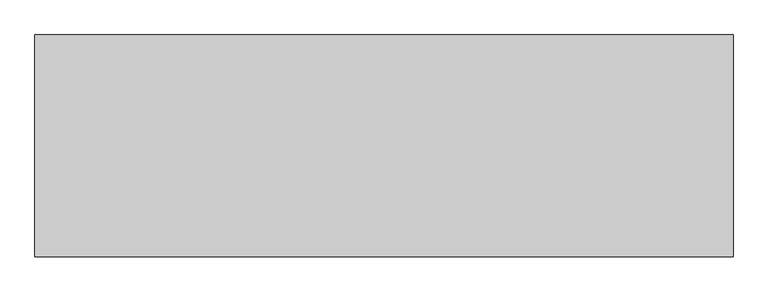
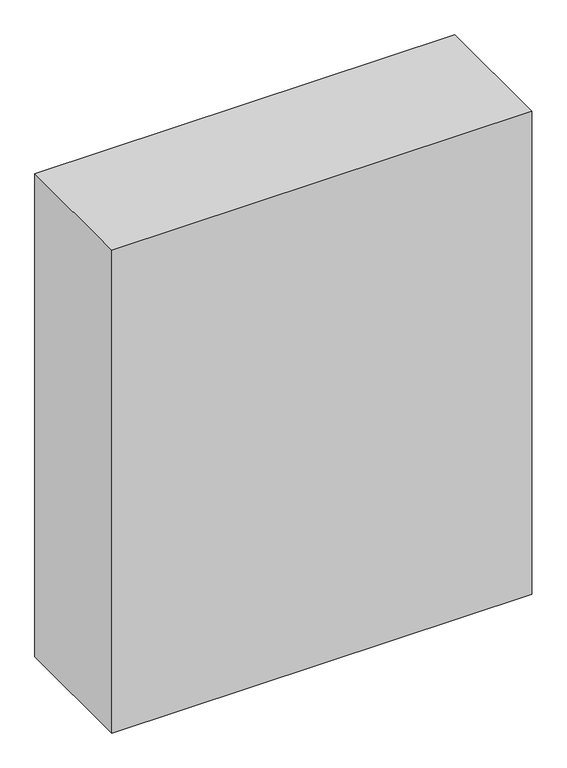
"""IFC4 building model written with IfcOpenShell, lengths in millimetres: proxy geometry."""

from ifc_helpers import new_model, si_unit, frame, origin, place, context, project, spatial, polyline, outline, extrude, source, transform, mapped, element, save


def generic_models_79b0e2c6(model_context):
    return source(origin(), model_context, "Body", "SweptSolid", [
        extrude(outline(polyline([(-2980.7903374, -228.9), (-4420.7903374, -228.9), (-4420.7903374, 228.9), (-2980.7903374, 228.9), (-2980.7903374, -228.9)])), frame((0.0, 0.0, 750.0), z_axis=(0.0, 0.0, 1.0), x_axis=(1.0, 0.0, 0.0)), (0.0, 0.0, 1.0), 1750.0),
    ])


if __name__ == "__main__":
    model = new_model("IFC4")
    model_context = context("Model", 3, world=origin())
    ifc_project = project(units=[si_unit("LENGTHUNIT", "METRE", prefix="MILLI")], contexts=[model_context])
    site = spatial("IfcSite", under=ifc_project)
    building = spatial("IfcBuilding", under=site)
    placement = place(None, origin())
    generic_models_shape = generic_models_79b0e2c6(model_context)
    element("IfcBuildingElementProxy", 1, Name="Generic Models", at=placement, inside=building, context=model_context, shape_type="MappedRepresentation", body=[
        mapped(generic_models_shape, transform((0.0, 0.0, 0.0), x_axis=(1.0, 0.0, 0.0), y_axis=(0.0, 1.0, 0.0), z_axis=(0.0, 0.0, 1.0))),
    ])
    save(model, "model.ifc")
